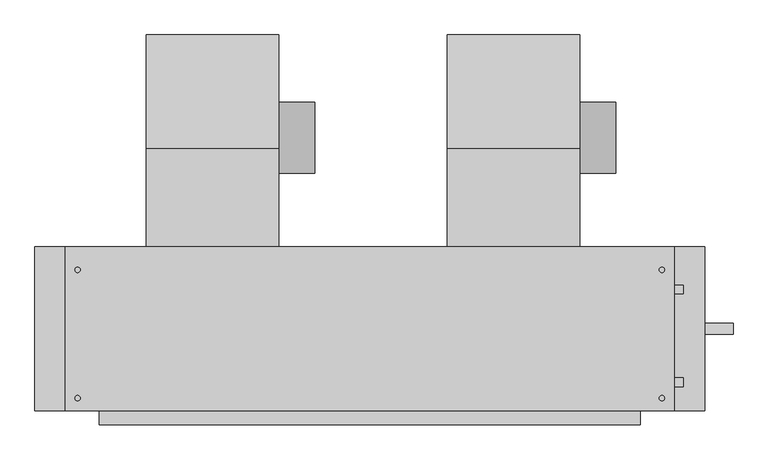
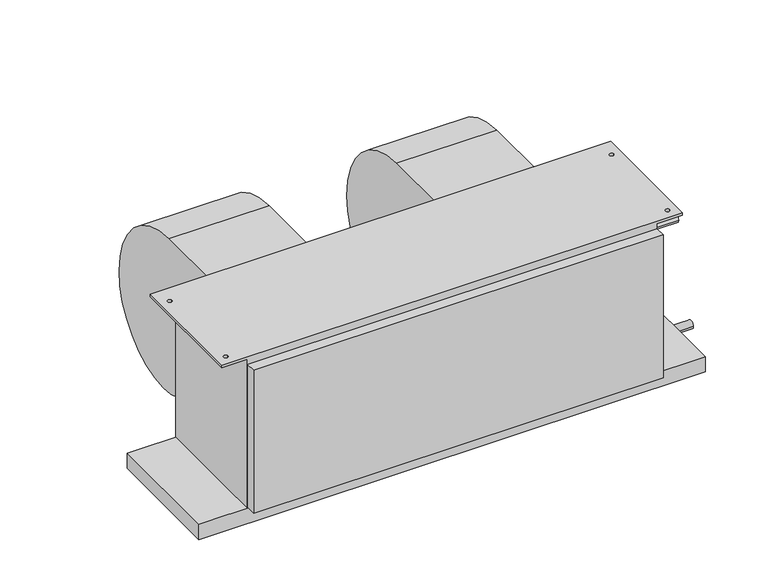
"""IFC4 building model written with IfcOpenShell, lengths in millimetres: proxy geometry, Concealed_High_Capacity_Horizontal_Fan_Coil_Unit_-_42DAA_-_CARRIER_-_2-Pipe_Cool-EHeat_RH_2022 : Size 16 - 277v/60Hz/1Ph - 6 Row 12.0kW."""

from ifc_helpers import new_model, si_unit, point, frame, frame_2d, origin, place, context, project, spatial, polyline, circle_curve, trimmed, segment, composite_curve, outline, extrude, source, transform, mapped, element, save
from ifc_brep_helpers import plane_surface, cylinder_surface, revolved_surface, advanced_brep


def mechanical_equipment_25ea116e(model_context):
    return source(origin(), model_context, "Body", "SolidModel", [
        extrude(outline(composite_curve([segment(trimmed(circle_curve(frame_2d((102.0007598, -206.8897468)), 63.5), [point((165.5007598, -206.8897468))], [point((38.5007598, -206.8897468))], False, "CARTESIAN"), True, "CONTINUOUS"), segment(trimmed(circle_curve(frame_2d((102.0007598, -206.8897468)), 63.5), [point((38.5007598, -206.8897468))], [point((165.5007598, -206.8897468))], False, "CARTESIAN"), True, "CONTINUOUS")], self_intersect=False)), frame((-9.525, 0.0, 0.0), z_axis=(1.0, 0.0, 0.0), x_axis=(0.0, 1.0, 0.0)), (0.0, 0.0, 1.0), 63.5),
        advanced_brep(
        [(-245.999, 285.5155957, -222.029602), (-245.999, 104.6226, -403.64664), (-245.999, -50.9016, -277.10638), (-245.999, -92.075, -277.10638), (-245.999, -92.075, -19.05), (-245.999, 83.0080093, -19.05), (-9.525, 285.5155957, -222.029602), (-9.525, 83.0080093, -19.05), (-9.525, -92.075, -19.05), (-9.525, -92.075, -277.10638), (-9.525, -50.9016, -277.10638), (-9.525, 104.622599, -403.6457839)],
        [
            (0, 1, circle_curve(frame((-245.999, 104.44226, -222.57258), z_axis=(-1.0, 0.0, 0.0), x_axis=(0.0, -1.0, 0.0)), 181.0741498)),
            (1, 2, circle_curve(frame((-245.999, 104.44226, -245.02364), z_axis=(-1.0, 0.0, 0.0), x_axis=(0.0, -1.0, 0.0)), 158.6222464)),
            (2, 3),
            (3, 4),
            (4, 5),
            (5, 0, circle_curve(frame((-245.999, 81.9912, -222.57258), z_axis=(-1.0, 0.0, 0.0), x_axis=(0.0, -1.0, 0.0)), 203.52512)),
            (6, 7, circle_curve(frame((-9.525, 81.9912, -222.57258), z_axis=(1.0, 0.0, 0.0), x_axis=(0.0, -1.0, 0.0)), 203.52512)),
            (7, 8),
            (8, 9),
            (9, 10),
            (10, 11, circle_curve(frame((-9.525, 104.44226, -245.02364), z_axis=(1.0, 0.0, 0.0), x_axis=(0.0, -1.0, 0.0)), 158.6222464)),
            (11, 6, circle_curve(frame((-9.525, 104.44226, -222.57258), z_axis=(1.0, 0.0, 0.0), x_axis=(0.0, -1.0, 0.0)), 181.0741498)),
            (0, 6),
            (11, 1),
            (10, 2),
            (9, 3),
            (8, 4),
            (7, 5),
        ],
        [
            plane_surface(frame((-245.999, -76.6318898, -222.57258), z_axis=(-1.0, 0.0, 0.0), x_axis=(0.0, 0.0, 1.0))),
            plane_surface(frame((-9.525, -76.6318898, -222.57258), z_axis=(1.0, 0.0, 0.0), x_axis=(0.0, 0.0, -1.0))),
            cylinder_surface(frame((-9.525, 104.44226, -222.57258), z_axis=(-1.0, 0.0, 0.0), x_axis=(0.0, -1.0, 0.0)), 181.0741498),
            cylinder_surface(frame((-9.525, 104.44226, -245.02364), z_axis=(-1.0, 0.0, 0.0), x_axis=(0.0, -1.0, 0.0)), 158.6222464),
            plane_surface(frame((-245.999, -50.9016, -277.10638), z_axis=(0.0, 0.0, -1.0), x_axis=(1.0, 0.0, 0.0))),
            plane_surface(frame((-245.999, -92.075, -277.10638), z_axis=(0.0, -1.0, 0.0), x_axis=(1.0, 0.0, 0.0))),
            plane_surface(frame((-245.999, -92.075, -19.05), z_axis=(0.0, 0.0, 1.0), x_axis=(1.0, 0.0, 0.0))),
            cylinder_surface(frame((-9.525, 81.9912, -222.57258), z_axis=(-1.0, 0.0, 0.0), x_axis=(0.0, -1.0, 0.0)), 203.52512),
        ],
        [
            (0, [[1, 2, 3, 4, 5, 6]]),
            (1, [[7, 8, 9, 10, 11, 12]]),
            (2, [[-1, 13, -12, 14]]),
            (3, [[-2, -14, -11, 15]]),
            (4, [[-3, -15, -10, 16]]),
            (5, [[-4, -16, -9, 17]]),
            (6, [[-5, -17, -8, 18]]),
            (7, [[-6, -18, -7, -13]]),
        ],
    ),
        extrude(outline(composite_curve([segment(trimmed(circle_curve(frame_2d((102.0007598, -206.8897468)), 63.5), [point((165.5007598, -206.8897468))], [point((38.5007598, -206.8897468))], False, "CARTESIAN"), True, "CONTINUOUS"), segment(trimmed(circle_curve(frame_2d((102.0007598, -206.8897468)), 63.5), [point((38.5007598, -206.8897468))], [point((165.5007598, -206.8897468))], False, "CARTESIAN"), True, "CONTINUOUS")], self_intersect=False)), frame((527.05, 0.0, 0.0), z_axis=(1.0, 0.0, 0.0), x_axis=(0.0, 1.0, 0.0)), (0.0, 0.0, 1.0), 63.5),
        advanced_brep(
        [(290.576, 285.5155957, -222.029602), (290.576, 104.6226, -403.64664), (290.576, -50.9016, -277.10638), (290.576, -92.075, -277.10638), (290.576, -92.075, -19.05), (290.576, 83.0080093, -19.05), (527.05, 285.5155957, -222.029602), (527.05, 83.0080093, -19.05), (527.05, -92.075, -19.05), (527.05, -92.075, -277.10638), (527.05, -50.9016, -277.10638), (527.05, 104.622599, -403.6457839)],
        [
            (0, 1, circle_curve(frame((290.576, 104.44226, -222.57258), z_axis=(-1.0, 0.0, 0.0), x_axis=(0.0, -1.0, 0.0)), 181.0741498)),
            (1, 2, circle_curve(frame((290.576, 104.44226, -245.02364), z_axis=(-1.0, 0.0, 0.0), x_axis=(0.0, -1.0, 0.0)), 158.6222464)),
            (2, 3),
            (3, 4),
            (4, 5),
            (5, 0, circle_curve(frame((290.576, 81.9912, -222.57258), z_axis=(-1.0, 0.0, 0.0), x_axis=(0.0, -1.0, 0.0)), 203.52512)),
            (6, 7, circle_curve(frame((527.05, 81.9912, -222.57258), z_axis=(1.0, 0.0, 0.0), x_axis=(0.0, -1.0, 0.0)), 203.52512)),
            (7, 8),
            (8, 9),
            (9, 10),
            (10, 11, circle_curve(frame((527.05, 104.44226, -245.02364), z_axis=(1.0, 0.0, 0.0), x_axis=(0.0, -1.0, 0.0)), 158.6222464)),
            (11, 6, circle_curve(frame((527.05, 104.44226, -222.57258), z_axis=(1.0, 0.0, 0.0), x_axis=(0.0, -1.0, 0.0)), 181.0741498)),
            (0, 6),
            (11, 1),
            (10, 2),
            (9, 3),
            (8, 4),
            (7, 5),
        ],
        [
            plane_surface(frame((290.576, -76.6318898, -222.57258), z_axis=(-1.0, 0.0, 0.0), x_axis=(0.0, 0.0, 1.0))),
            plane_surface(frame((527.05, -76.6318898, -222.57258), z_axis=(1.0, 0.0, 0.0), x_axis=(0.0, 0.0, -1.0))),
            cylinder_surface(frame((527.05, 104.44226, -222.57258), z_axis=(-1.0, 0.0, 0.0), x_axis=(0.0, -1.0, 0.0)), 181.0741498),
            cylinder_surface(frame((527.05, 104.44226, -245.02364), z_axis=(-1.0, 0.0, 0.0), x_axis=(0.0, -1.0, 0.0)), 158.6222464),
            plane_surface(frame((290.576, -50.9016, -277.10638), z_axis=(0.0, 0.0, -1.0), x_axis=(1.0, 0.0, 0.0))),
            plane_surface(frame((290.576, -92.075, -277.10638), z_axis=(0.0, -1.0, 0.0), x_axis=(1.0, 0.0, 0.0))),
            plane_surface(frame((290.576, -92.075, -19.05), z_axis=(0.0, 0.0, 1.0), x_axis=(1.0, 0.0, 0.0))),
            cylinder_surface(frame((527.05, 81.9912, -222.57258), z_axis=(-1.0, 0.0, 0.0), x_axis=(0.0, -1.0, 0.0)), 203.52512),
        ],
        [
            (0, [[1, 2, 3, 4, 5, 6]]),
            (1, [[7, 8, 9, 10, 11, 12]]),
            (2, [[-1, 13, -12, 14]]),
            (3, [[-2, -14, -11, 15]]),
            (4, [[-3, -15, -10, 16]]),
            (5, [[-4, -16, -9, 17]]),
            (6, [[-5, -17, -8, 18]]),
            (7, [[-6, -18, -7, -13]]),
        ],
    ),
        advanced_brep(
        [(635.0, -92.075, -377.825), (635.0, -384.175, -377.825), (-330.2, -384.175, -377.825), (-330.2, -92.075, -377.825), (-330.2, -384.175, -6.35), (-330.2, -92.075, -6.35), (635.0, -92.075, -6.35), (635.0, -384.175, -6.35), (695.325, -92.075, -6.35), (695.325, -384.175, -6.35), (668.3375, -133.35, -6.35), (677.8625, -133.35, -6.35), (668.3375, -361.95, -6.35), (677.8625, -361.95, -6.35), (-390.525, -92.075, -6.35), (-390.525, -384.175, -6.35), (-373.0625, -133.35, -6.35), (-363.5375, -133.35, -6.35), (-373.0625, -361.95, -6.35), (-363.5375, -361.95, -6.35), (695.325, -384.175, 0.0), (695.325, -92.075, 0.0), (-390.525, -92.075, 0.0), (-390.525, -384.175, 0.0), (-363.5375, -133.35, 0.0), (-373.0625, -133.35, 0.0), (-363.5375, -361.95, 0.0), (-373.0625, -361.95, 0.0), (677.8625, -133.35, 0.0), (668.3375, -133.35, 0.0), (677.8625, -361.95, 0.0), (668.3375, -361.95, 0.0)],
        [
            (0, 1),
            (1, 2),
            (2, 3),
            (3, 0),
            (2, 4),
            (4, 5),
            (5, 3),
            (0, 6),
            (6, 7),
            (7, 1),
            (8, 9),
            (9, 7),
            (6, 8),
            (10, 11, circle_curve(frame((673.1, -133.35, -6.35), z_axis=(0.0, 0.0, 1.0), x_axis=(1.0, 0.0, 0.0)), 4.7625)),
            (11, 10, circle_curve(frame((673.1, -133.35, -6.35), z_axis=(0.0, 0.0, 1.0), x_axis=(1.0, 0.0, 0.0)), 4.7625)),
            (12, 13, circle_curve(frame((673.1, -361.95, -6.35), z_axis=(0.0, 0.0, 1.0), x_axis=(1.0, 0.0, 0.0)), 4.7625)),
            (13, 12, circle_curve(frame((673.1, -361.95, -6.35), z_axis=(0.0, 0.0, 1.0), x_axis=(1.0, 0.0, 0.0)), 4.7625)),
            (14, 5),
            (4, 15),
            (15, 14),
            (16, 17, circle_curve(frame((-368.3, -133.35, -6.35), z_axis=(0.0, 0.0, 1.0), x_axis=(1.0, 0.0, 0.0)), 4.7625)),
            (17, 16, circle_curve(frame((-368.3, -133.35, -6.35), z_axis=(0.0, 0.0, 1.0), x_axis=(1.0, 0.0, 0.0)), 4.7625)),
            (18, 19, circle_curve(frame((-368.3, -361.95, -6.35), z_axis=(0.0, 0.0, 1.0), x_axis=(1.0, 0.0, 0.0)), 4.7625)),
            (19, 18, circle_curve(frame((-368.3, -361.95, -6.35), z_axis=(0.0, 0.0, 1.0), x_axis=(1.0, 0.0, 0.0)), 4.7625)),
            (20, 21),
            (21, 22),
            (22, 23),
            (23, 20),
            (24, 25, circle_curve(frame((-368.3, -133.35, 0.0), z_axis=(0.0, 0.0, -1.0), x_axis=(1.0, 0.0, 0.0)), 4.7625)),
            (25, 24, circle_curve(frame((-368.3, -133.35, 0.0), z_axis=(0.0, 0.0, -1.0), x_axis=(1.0, 0.0, 0.0)), 4.7625)),
            (26, 27, circle_curve(frame((-368.3, -361.95, 0.0), z_axis=(0.0, 0.0, -1.0), x_axis=(1.0, 0.0, 0.0)), 4.7625)),
            (27, 26, circle_curve(frame((-368.3, -361.95, 0.0), z_axis=(0.0, 0.0, -1.0), x_axis=(1.0, 0.0, 0.0)), 4.7625)),
            (28, 29, circle_curve(frame((673.1, -133.35, 0.0), z_axis=(0.0, 0.0, -1.0), x_axis=(1.0, 0.0, 0.0)), 4.7625)),
            (29, 28, circle_curve(frame((673.1, -133.35, 0.0), z_axis=(0.0, 0.0, -1.0), x_axis=(1.0, 0.0, 0.0)), 4.7625)),
            (30, 31, circle_curve(frame((673.1, -361.95, 0.0), z_axis=(0.0, 0.0, -1.0), x_axis=(1.0, 0.0, 0.0)), 4.7625)),
            (31, 30, circle_curve(frame((673.1, -361.95, 0.0), z_axis=(0.0, 0.0, -1.0), x_axis=(1.0, 0.0, 0.0)), 4.7625)),
            (14, 22),
            (21, 8),
            (9, 20),
            (23, 15),
            (24, 17),
            (16, 25),
            (26, 19),
            (18, 27),
            (28, 11),
            (10, 29),
            (30, 13),
            (12, 31),
        ],
        [
            plane_surface(frame((-330.2, -92.075, -377.825), z_axis=(0.0, 0.0, -1.0), x_axis=(1.0, 0.0, 0.0))),
            plane_surface(frame((-330.2, -92.075, 0.0), z_axis=(-1.0, 0.0, 0.0), x_axis=(0.0, 0.0, -1.0))),
            plane_surface(frame((635.0, -384.175, 0.0), z_axis=(1.0, 0.0, 0.0), x_axis=(0.0, 0.0, -1.0))),
            plane_surface(frame((635.0, -92.075, -6.35), z_axis=(0.0, 0.0, -1.0), x_axis=(1.0, 0.0, 0.0))),
            plane_surface(frame((635.0, -92.075, 0.0), z_axis=(0.0, 0.0, 1.0), x_axis=(-1.0, 0.0, 0.0))),
            plane_surface(frame((695.325, -92.075, 0.0), z_axis=(0.0, 1.0, 0.0), x_axis=(0.0, 0.0, -1.0))),
            plane_surface(frame((635.0, -384.175, 0.0), z_axis=(0.0, -1.0, 0.0), x_axis=(0.0, 0.0, -1.0))),
            plane_surface(frame((695.325, -384.175, 0.0), z_axis=(1.0, 0.0, 0.0), x_axis=(0.0, 0.0, -1.0))),
            plane_surface(frame((-390.525, -92.075, 0.0), z_axis=(-1.0, 0.0, 0.0), x_axis=(0.0, 0.0, -1.0))),
            revolved_surface(polyline([(-363.5375, -133.35, 0.0), (-363.5375, -133.35, -6.35)]), (-368.3, -133.35, -6.35), (0.0, 0.0, 1.0)),
            revolved_surface(polyline([(-363.5375, -361.95, 0.0), (-363.5375, -361.95, -6.35)]), (-368.3, -361.95, 0.0), (0.0, 0.0, 1.0)),
            revolved_surface(polyline([(677.8625000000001, -133.35, 0.0), (677.8625000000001, -133.35, -6.35)]), (673.1, -133.35, 0.0), (0.0, 0.0, 1.0)),
            revolved_surface(polyline([(677.8625000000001, -361.95, 0.0), (677.8625000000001, -361.95, -6.35)]), (673.1, -361.95, 0.0), (0.0, 0.0, 1.0)),
        ],
        [
            (0, [[1, 2, 3, 4]]),
            (1, [[-3, 5, 6, 7]]),
            (2, [[-1, 8, 9, 10]]),
            (3, [[11, 12, -9, 13], [14, 15], [16, 17]]),
            (3, [[18, -6, 19, 20], [21, 22], [23, 24]]),
            (4, [[25, 26, 27, 28], [29, 30], [31, 32], [33, 34], [35, 36]]),
            (5, [[-13, -8, -4, -7, -18, 37, -26, 38]]),
            (6, [[-12, 39, -28, 40, -19, -5, -2, -10]]),
            (7, [[-11, -38, -25, -39]]),
            (8, [[-20, -40, -27, -37]]),
            (9, [[41, -21, 42, -29]]),
            (9, [[-41, -30, -42, -22]]),
            (10, [[43, -23, 44, -31]]),
            (10, [[-43, -32, -44, -24]]),
            (11, [[45, -14, 46, -33]]),
            (11, [[-45, -34, -46, -15]]),
            (12, [[47, -16, 48, -35]]),
            (12, [[-47, -36, -48, -17]]),
        ],
    ),
        extrude(outline(composite_curve([segment(trimmed(circle_curve(frame_2d((-238.125, -403.225)), 9.525), [point((-228.6, -403.225))], [point((-247.65, -403.225))], False, "CARTESIAN"), True, "CONTINUOUS"), segment(trimmed(circle_curve(frame_2d((-238.125, -403.225)), 9.525), [point((-247.65, -403.225))], [point((-228.6, -403.225))], False, "CARTESIAN"), True, "CONTINUOUS")], self_intersect=False)), frame((749.3, 0.0, 0.0), z_axis=(1.0, 0.0, 0.0), x_axis=(0.0, 1.0, 0.0)), (0.0, 0.0, 1.0), 50.8),
        extrude(outline(composite_curve([segment(trimmed(circle_curve(frame_2d((-333.375, -50.8)), 7.9375), [point((-325.4375, -50.8))], [point((-341.3125, -50.8))], False, "CARTESIAN"), True, "CONTINUOUS"), segment(trimmed(circle_curve(frame_2d((-333.375, -50.8)), 7.9375), [point((-341.3125, -50.8))], [point((-325.4375, -50.8))], False, "CARTESIAN"), True, "CONTINUOUS")], self_intersect=False)), frame((635.0, 0.0, 0.0), z_axis=(1.0, 0.0, 0.0), x_axis=(0.0, 1.0, 0.0)), (0.0, 0.0, 1.0), 76.2),
        extrude(outline(composite_curve([segment(trimmed(circle_curve(frame_2d((-168.275, -327.025)), 7.9375), [point((-160.3375, -327.025))], [point((-176.2125, -327.025))], False, "CARTESIAN"), True, "CONTINUOUS"), segment(trimmed(circle_curve(frame_2d((-168.275, -327.025)), 7.9375), [point((-176.2125, -327.025))], [point((-160.3375, -327.025))], False, "CARTESIAN"), True, "CONTINUOUS")], self_intersect=False)), frame((635.0, 0.0, 0.0), z_axis=(1.0, 0.0, 0.0), x_axis=(0.0, 1.0, 0.0)), (0.0, 0.0, 1.0), 76.2),
        extrude(outline(polyline([(635.0, -409.575), (-330.2, -409.575), (-330.2, -384.175), (635.0, -384.175), (635.0, -409.575)])), frame((0.0, 0.0, -374.65), z_axis=(0.0, 0.0, 1.0), x_axis=(1.0, 0.0, 0.0)), (0.0, 0.0, 1.0), 355.6),
        extrude(outline(polyline([(749.3, -92.075), (749.3, -384.175), (-444.5, -384.175), (-444.5, -92.075), (749.3, -92.075)])), frame((0.0, 0.0, -415.925), z_axis=(0.0, 0.0, 1.0), x_axis=(1.0, 0.0, 0.0)), (0.0, 0.0, 1.0), 38.1),
    ])


if __name__ == "__main__":
    model = new_model("IFC4")
    model_context = context("Model", 3, world=origin())
    ifc_project = project(units=[si_unit("LENGTHUNIT", "METRE", prefix="MILLI")], contexts=[model_context])
    site = spatial("IfcSite", under=ifc_project)
    building = spatial("IfcBuilding", under=site)
    placement = place(None, origin())
    mechanical_equipment_shape = mechanical_equipment_25ea116e(model_context)
    element("IfcBuildingElementProxy", 1, Name="Concealed_High_Capacity_Horizontal_Fan_Coil_Unit_-_42DAA_-_CARRIER_-_2-Pipe_Cool-EHeat_RH_2022 : Size 16 - 277v/60Hz/1Ph - 6 Row 12.0kW", ObjectType="Concealed_High_Capacity_Horizontal_Fan_Coil_Unit_-_42DAA_-_CARRIER_-_2-Pipe_Cool-EHeat_RH_2022 : Size 16 - 277v/60Hz/1Ph - 6 Row 12.0kW", at=placement, inside=building, context=model_context, shape_type="MappedRepresentation", body=[
        mapped(mechanical_equipment_shape, transform((0.0, 0.0, 0.0), x_axis=(1.0, 0.0, 0.0), y_axis=(0.0, 1.0, 0.0), z_axis=(0.0, 0.0, 1.0))),
    ])
    save(model, "model.ifc")
